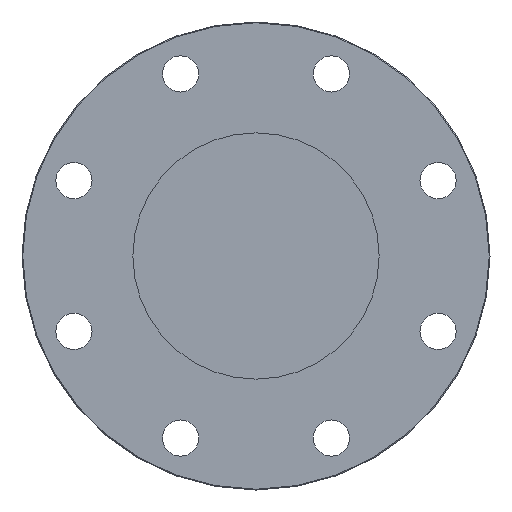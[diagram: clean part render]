
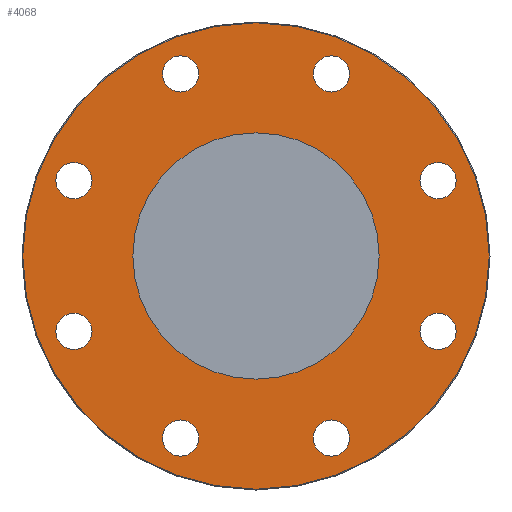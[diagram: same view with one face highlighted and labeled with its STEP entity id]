
A CAD part, left-side view. The second image highlights one B-rep face of the part: STEP entity #4068.
In plain terms, the highlighted planar face has unit normal (-1, 0, 0).
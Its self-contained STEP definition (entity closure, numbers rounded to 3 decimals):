
#95=CIRCLE('',#4300,11.);
#96=CIRCLE('',#4301,11.);
#98=CIRCLE('',#4305,11.);
#99=CIRCLE('',#4306,11.);
#101=CIRCLE('',#4310,11.);
#102=CIRCLE('',#4311,11.);
#104=CIRCLE('',#4315,11.);
#105=CIRCLE('',#4316,11.);
#107=CIRCLE('',#4320,11.);
#108=CIRCLE('',#4321,11.);
#110=CIRCLE('',#4325,11.);
#111=CIRCLE('',#4326,11.);
#113=CIRCLE('',#4330,11.);
#114=CIRCLE('',#4331,11.);
#116=CIRCLE('',#4335,11.);
#117=CIRCLE('',#4336,11.);
#120=CIRCLE('',#4342,75.);
#133=CIRCLE('',#4363,142.);
#1013=FACE_BOUND('',#1497,.T.);
#1014=FACE_BOUND('',#1498,.T.);
#1015=FACE_BOUND('',#1499,.T.);
#1016=FACE_BOUND('',#1500,.T.);
#1017=FACE_BOUND('',#1501,.T.);
#1018=FACE_BOUND('',#1502,.T.);
#1019=FACE_BOUND('',#1503,.T.);
#1020=FACE_BOUND('',#1504,.T.);
#1021=FACE_BOUND('',#1505,.T.);
#1235=FACE_OUTER_BOUND('',#1496,.T.);
#1496=EDGE_LOOP('',(#3685));
#1497=EDGE_LOOP('',(#3686,#3687));
#1498=EDGE_LOOP('',(#3688,#3689));
#1499=EDGE_LOOP('',(#3690,#3691));
#1500=EDGE_LOOP('',(#3692,#3693));
#1501=EDGE_LOOP('',(#3694,#3695));
#1502=EDGE_LOOP('',(#3696,#3697));
#1503=EDGE_LOOP('',(#3698,#3699));
#1504=EDGE_LOOP('',(#3700,#3701));
#1505=EDGE_LOOP('',(#3702));
#1944=VERTEX_POINT('',#7234);
#1945=VERTEX_POINT('',#7235);
#1947=VERTEX_POINT('',#7244);
#1948=VERTEX_POINT('',#7245);
#1950=VERTEX_POINT('',#7254);
#1951=VERTEX_POINT('',#7255);
#1953=VERTEX_POINT('',#7264);
#1954=VERTEX_POINT('',#7265);
#1956=VERTEX_POINT('',#7274);
#1957=VERTEX_POINT('',#7275);
#1959=VERTEX_POINT('',#7284);
#1960=VERTEX_POINT('',#7285);
#1962=VERTEX_POINT('',#7294);
#1963=VERTEX_POINT('',#7295);
#1965=VERTEX_POINT('',#7304);
#1966=VERTEX_POINT('',#7305);
#1969=VERTEX_POINT('',#7317);
#1982=VERTEX_POINT('',#7357);
#2496=EDGE_CURVE('',#1944,#1945,#95,.T.);
#2497=EDGE_CURVE('',#1945,#1944,#96,.T.);
#2501=EDGE_CURVE('',#1947,#1948,#98,.T.);
#2502=EDGE_CURVE('',#1948,#1947,#99,.T.);
#2506=EDGE_CURVE('',#1950,#1951,#101,.T.);
#2507=EDGE_CURVE('',#1951,#1950,#102,.T.);
#2511=EDGE_CURVE('',#1953,#1954,#104,.T.);
#2512=EDGE_CURVE('',#1954,#1953,#105,.T.);
#2516=EDGE_CURVE('',#1956,#1957,#107,.T.);
#2517=EDGE_CURVE('',#1957,#1956,#108,.T.);
#2521=EDGE_CURVE('',#1959,#1960,#110,.T.);
#2522=EDGE_CURVE('',#1960,#1959,#111,.T.);
#2526=EDGE_CURVE('',#1962,#1963,#113,.T.);
#2527=EDGE_CURVE('',#1963,#1962,#114,.T.);
#2531=EDGE_CURVE('',#1965,#1966,#116,.T.);
#2532=EDGE_CURVE('',#1966,#1965,#117,.T.);
#2537=EDGE_CURVE('',#1969,#1969,#120,.T.);
#2557=EDGE_CURVE('',#1982,#1982,#133,.T.);
#3685=ORIENTED_EDGE('',*,*,#2557,.F.);
#3686=ORIENTED_EDGE('',*,*,#2496,.T.);
#3687=ORIENTED_EDGE('',*,*,#2497,.T.);
#3688=ORIENTED_EDGE('',*,*,#2501,.T.);
#3689=ORIENTED_EDGE('',*,*,#2502,.T.);
#3690=ORIENTED_EDGE('',*,*,#2506,.T.);
#3691=ORIENTED_EDGE('',*,*,#2507,.T.);
#3692=ORIENTED_EDGE('',*,*,#2511,.T.);
#3693=ORIENTED_EDGE('',*,*,#2512,.T.);
#3694=ORIENTED_EDGE('',*,*,#2516,.T.);
#3695=ORIENTED_EDGE('',*,*,#2517,.T.);
#3696=ORIENTED_EDGE('',*,*,#2521,.T.);
#3697=ORIENTED_EDGE('',*,*,#2522,.T.);
#3698=ORIENTED_EDGE('',*,*,#2526,.T.);
#3699=ORIENTED_EDGE('',*,*,#2527,.T.);
#3700=ORIENTED_EDGE('',*,*,#2531,.T.);
#3701=ORIENTED_EDGE('',*,*,#2532,.T.);
#3702=ORIENTED_EDGE('',*,*,#2537,.T.);
#3835=PLANE('',#4364);
#4068=ADVANCED_FACE('',(#1235,#1013,#1014,#1015,#1016,#1017,#1018,#1019,
#1020,#1021),#3835,.T.);
#4300=AXIS2_PLACEMENT_3D('',#7236,#5133,#5134);
#4301=AXIS2_PLACEMENT_3D('',#7237,#5135,#5136);
#4305=AXIS2_PLACEMENT_3D('',#7246,#5145,#5146);
#4306=AXIS2_PLACEMENT_3D('',#7247,#5147,#5148);
#4310=AXIS2_PLACEMENT_3D('',#7256,#5157,#5158);
#4311=AXIS2_PLACEMENT_3D('',#7257,#5159,#5160);
#4315=AXIS2_PLACEMENT_3D('',#7266,#5169,#5170);
#4316=AXIS2_PLACEMENT_3D('',#7267,#5171,#5172);
#4320=AXIS2_PLACEMENT_3D('',#7276,#5181,#5182);
#4321=AXIS2_PLACEMENT_3D('',#7277,#5183,#5184);
#4325=AXIS2_PLACEMENT_3D('',#7286,#5193,#5194);
#4326=AXIS2_PLACEMENT_3D('',#7287,#5195,#5196);
#4330=AXIS2_PLACEMENT_3D('',#7296,#5205,#5206);
#4331=AXIS2_PLACEMENT_3D('',#7297,#5207,#5208);
#4335=AXIS2_PLACEMENT_3D('',#7306,#5217,#5218);
#4336=AXIS2_PLACEMENT_3D('',#7307,#5219,#5220);
#4342=AXIS2_PLACEMENT_3D('',#7318,#5233,#5234);
#4363=AXIS2_PLACEMENT_3D('',#7359,#5282,#5283);
#4364=AXIS2_PLACEMENT_3D('',#7360,#5284,#5285);
#5133=DIRECTION('center_axis',(1.,0.,0.));
#5134=DIRECTION('ref_axis',(0.,0.,1.));
#5135=DIRECTION('center_axis',(1.,0.,0.));
#5136=DIRECTION('ref_axis',(0.,0.,1.));
#5145=DIRECTION('center_axis',(1.,0.,0.));
#5146=DIRECTION('ref_axis',(0.,0.,1.));
#5147=DIRECTION('center_axis',(1.,0.,0.));
#5148=DIRECTION('ref_axis',(0.,0.,1.));
#5157=DIRECTION('center_axis',(1.,0.,0.));
#5158=DIRECTION('ref_axis',(0.,0.,1.));
#5159=DIRECTION('center_axis',(1.,0.,0.));
#5160=DIRECTION('ref_axis',(0.,0.,1.));
#5169=DIRECTION('center_axis',(1.,0.,0.));
#5170=DIRECTION('ref_axis',(0.,0.,1.));
#5171=DIRECTION('center_axis',(1.,0.,0.));
#5172=DIRECTION('ref_axis',(0.,0.,1.));
#5181=DIRECTION('center_axis',(1.,0.,0.));
#5182=DIRECTION('ref_axis',(0.,0.,1.));
#5183=DIRECTION('center_axis',(1.,0.,0.));
#5184=DIRECTION('ref_axis',(0.,0.,1.));
#5193=DIRECTION('center_axis',(1.,0.,0.));
#5194=DIRECTION('ref_axis',(0.,0.,1.));
#5195=DIRECTION('center_axis',(1.,0.,0.));
#5196=DIRECTION('ref_axis',(0.,0.,1.));
#5205=DIRECTION('center_axis',(1.,0.,0.));
#5206=DIRECTION('ref_axis',(0.,0.,1.));
#5207=DIRECTION('center_axis',(1.,0.,0.));
#5208=DIRECTION('ref_axis',(0.,0.,1.));
#5217=DIRECTION('center_axis',(1.,0.,0.));
#5218=DIRECTION('ref_axis',(0.,0.,1.));
#5219=DIRECTION('center_axis',(1.,0.,0.));
#5220=DIRECTION('ref_axis',(0.,0.,1.));
#5233=DIRECTION('center_axis',(1.,0.,0.));
#5234=DIRECTION('ref_axis',(0.,0.,-1.));
#5282=DIRECTION('center_axis',(1.,0.,0.));
#5283=DIRECTION('ref_axis',(0.,-1.,0.));
#5284=DIRECTION('center_axis',(-1.,0.,0.));
#5285=DIRECTION('ref_axis',(0.,0.,1.));
#7234=CARTESIAN_POINT('',(-100.,110.866,56.922));
#7235=CARTESIAN_POINT('',(-100.,110.866,34.922));
#7236=CARTESIAN_POINT('Origin',(-100.,110.866,45.922));
#7237=CARTESIAN_POINT('Origin',(-100.,110.866,45.922));
#7244=CARTESIAN_POINT('',(-100.,45.922,121.866));
#7245=CARTESIAN_POINT('',(-100.,45.922,99.866));
#7246=CARTESIAN_POINT('Origin',(-100.,45.922,110.866));
#7247=CARTESIAN_POINT('Origin',(-100.,45.922,110.866));
#7254=CARTESIAN_POINT('',(-100.,-45.922,121.866));
#7255=CARTESIAN_POINT('',(-100.,-45.922,99.866));
#7256=CARTESIAN_POINT('Origin',(-100.,-45.922,110.866));
#7257=CARTESIAN_POINT('Origin',(-100.,-45.922,110.866));
#7264=CARTESIAN_POINT('',(-100.,-110.866,56.922));
#7265=CARTESIAN_POINT('',(-100.,-110.866,34.922));
#7266=CARTESIAN_POINT('Origin',(-100.,-110.866,45.922));
#7267=CARTESIAN_POINT('Origin',(-100.,-110.866,45.922));
#7274=CARTESIAN_POINT('',(-100.,-110.866,-34.922));
#7275=CARTESIAN_POINT('',(-100.,-110.866,-56.922));
#7276=CARTESIAN_POINT('Origin',(-100.,-110.866,-45.922));
#7277=CARTESIAN_POINT('Origin',(-100.,-110.866,-45.922));
#7284=CARTESIAN_POINT('',(-100.,-45.922,-99.866));
#7285=CARTESIAN_POINT('',(-100.,-45.922,-121.866));
#7286=CARTESIAN_POINT('Origin',(-100.,-45.922,-110.866));
#7287=CARTESIAN_POINT('Origin',(-100.,-45.922,-110.866));
#7294=CARTESIAN_POINT('',(-100.,45.922,-99.866));
#7295=CARTESIAN_POINT('',(-100.,45.922,-121.866));
#7296=CARTESIAN_POINT('Origin',(-100.,45.922,-110.866));
#7297=CARTESIAN_POINT('Origin',(-100.,45.922,-110.866));
#7304=CARTESIAN_POINT('',(-100.,110.866,-34.922));
#7305=CARTESIAN_POINT('',(-100.,110.866,-56.922));
#7306=CARTESIAN_POINT('Origin',(-100.,110.866,-45.922));
#7307=CARTESIAN_POINT('Origin',(-100.,110.866,-45.922));
#7317=CARTESIAN_POINT('',(-100.,0.,75.));
#7318=CARTESIAN_POINT('Origin',(-100.,0.,0.));
#7357=CARTESIAN_POINT('',(-100.,142.,0.));
#7359=CARTESIAN_POINT('Origin',(-100.,0.,0.));
#7360=CARTESIAN_POINT('Origin',(-100.,71.25,0.));
